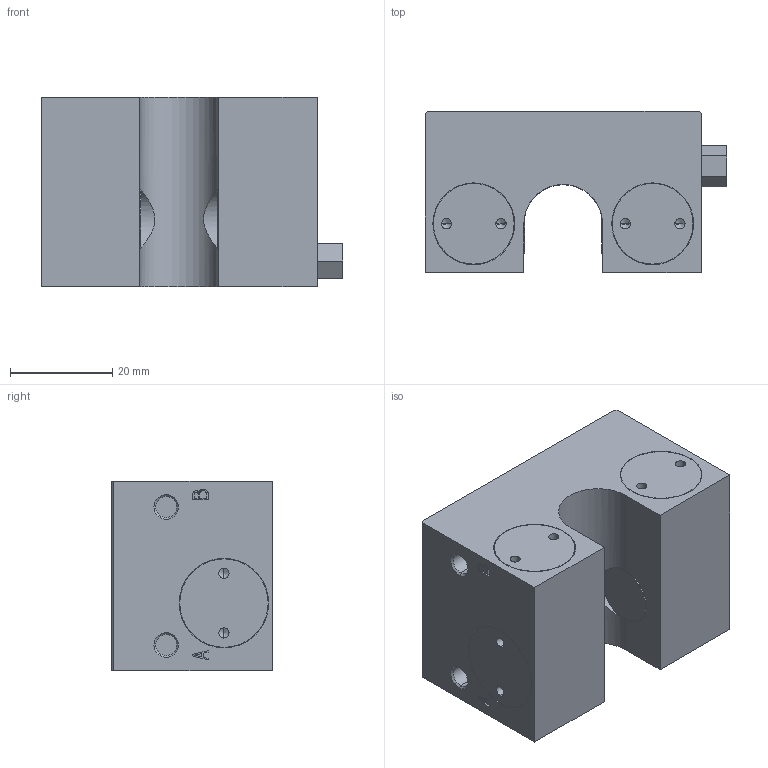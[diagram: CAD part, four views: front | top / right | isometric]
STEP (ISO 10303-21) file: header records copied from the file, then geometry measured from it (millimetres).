
FILE_DESCRIPTION( ( '' ), '1' );
FILE_NAME( 'E:/04 嬴檜蠱滌/0404 ZIMMER/040414 ZIMMER CAD download/MKR/MKR1500A-A.stp', '2020-04-16T10:10:01', ( '' ), ( '' ), ' ', ' ', ' ' );
FILE_SCHEMA( ( 'automotive_design' ) );
Length unit declared in the file: millimetre
Products named in the file (1): 1
Bounding box: 59 x 31.5 x 37 mm (x, y, z)
Volume: 53513.8 mm3; surface area: 12777.1 mm2
Topology: 1 solids, 2 shells, 184 faces, 426 edges, 264 vertices
Faces by surface type: plane 87, cylinder 65, cone 32
Entity records: 10132 total; most frequent: CARTESIAN_POINT 1049, DIRECTION 914, STYLED_ITEM 859, PRESENTATION_STYLE_ASSIGNMENT 859, COLOUR_RGB 859, ORIENTED_EDGE 820, EDGE_CURVE 410, CURVE_STYLE 410
